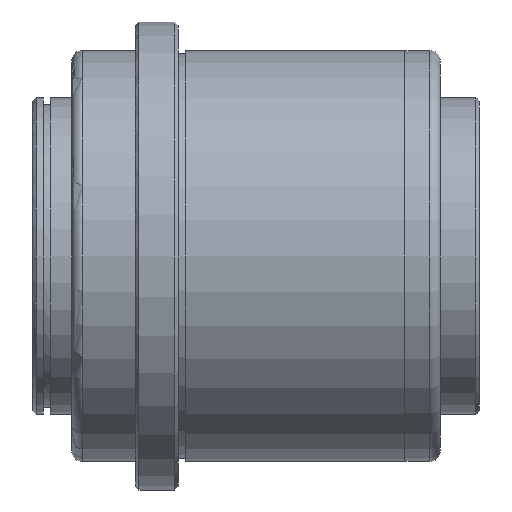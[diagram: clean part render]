
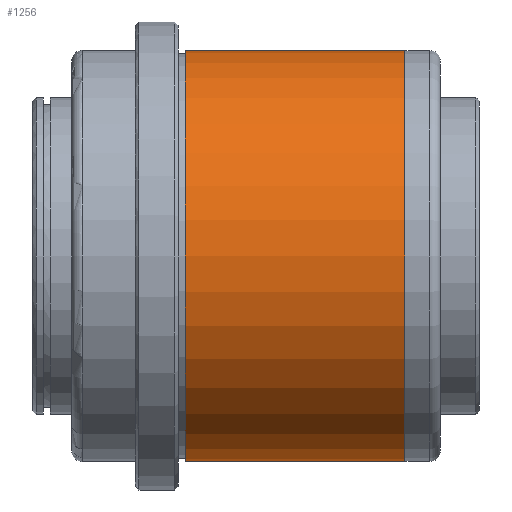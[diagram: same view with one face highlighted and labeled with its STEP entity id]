
A CAD part, front view. The second image highlights one B-rep face of the part: STEP entity #1256.
In plain terms, the highlighted cylindrical face has radius 29 mm (diameter 58 mm), a partial arc.
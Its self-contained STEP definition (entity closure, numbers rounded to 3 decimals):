
#1090=CARTESIAN_POINT('Vertex',(47.,0.,29.)) ;
#1093=CARTESIAN_POINT('Axis2P3D Location',(47.,0.,0.)) ;
#1097=CARTESIAN_POINT('Vertex',(47.,-29.,0.)) ;
#1100=CARTESIAN_POINT('Axis2P3D Location',(47.,0.,0.)) ;
#1104=CARTESIAN_POINT('Vertex',(47.,0.,-29.)) ;
#1196=CARTESIAN_POINT('Line Origine',(52.,0.,29.)) ;
#1200=CARTESIAN_POINT('Vertex',(16.,0.,29.)) ;
#1203=CARTESIAN_POINT('Line Origine',(52.,0.,-29.)) ;
#1207=CARTESIAN_POINT('Vertex',(16.,0.,-29.)) ;
#1231=CARTESIAN_POINT('Axis2P3D Location',(52.,0.,0.)) ;
#1236=CARTESIAN_POINT('Axis2P3D Location',(16.,0.,0.)) ;
#1240=CARTESIAN_POINT('Vertex',(16.,-29.,0.)) ;
#1243=CARTESIAN_POINT('Axis2P3D Location',(16.,0.,0.)) ;
#1094=DIRECTION('Axis2P3D Direction',(1.,0.,-0.)) ;
#1101=DIRECTION('Axis2P3D Direction',(1.,0.,-0.)) ;
#1197=DIRECTION('Vector Direction',(-1.,0.,0.)) ;
#1204=DIRECTION('Vector Direction',(-1.,0.,0.)) ;
#1232=DIRECTION('Axis2P3D Direction',(-1.,-0.,-0.)) ;
#1233=DIRECTION('Axis2P3D XDirection',(0.,0.,-1.)) ;
#1237=DIRECTION('Axis2P3D Direction',(-1.,-0.,-0.)) ;
#1244=DIRECTION('Axis2P3D Direction',(-1.,-0.,-0.)) ;
#1095=AXIS2_PLACEMENT_3D('Circle Axis2P3D',#1093,#1094,$) ;
#1102=AXIS2_PLACEMENT_3D('Circle Axis2P3D',#1100,#1101,$) ;
#1234=AXIS2_PLACEMENT_3D('Cylinder Axis2P3D',#1231,#1232,#1233) ;
#1238=AXIS2_PLACEMENT_3D('Circle Axis2P3D',#1236,#1237,$) ;
#1245=AXIS2_PLACEMENT_3D('Circle Axis2P3D',#1243,#1244,$) ;
#1249=ORIENTED_EDGE('',*,*,#1209,.T.) ;
#1250=ORIENTED_EDGE('',*,*,#1106,.F.) ;
#1251=ORIENTED_EDGE('',*,*,#1099,.F.) ;
#1252=ORIENTED_EDGE('',*,*,#1202,.T.) ;
#1253=ORIENTED_EDGE('',*,*,#1242,.T.) ;
#1254=ORIENTED_EDGE('',*,*,#1247,.T.) ;
#1198=VECTOR('Line Direction',#1197,1.) ;
#1205=VECTOR('Line Direction',#1204,1.) ;
#1256=ADVANCED_FACE('732-38',(#1255),#1235,.T.) ;
#1096=CIRCLE('generated circle',#1095,29.) ;
#1103=CIRCLE('generated circle',#1102,29.) ;
#1239=CIRCLE('generated circle',#1238,29.) ;
#1246=CIRCLE('generated circle',#1245,29.) ;
#1235=CYLINDRICAL_SURFACE('generated cylinder',#1234,29.) ;
#1099=EDGE_CURVE('',#1091,#1098,#1096,.T.) ;
#1106=EDGE_CURVE('',#1098,#1105,#1103,.T.) ;
#1202=EDGE_CURVE('',#1091,#1201,#1199,.T.) ;
#1209=EDGE_CURVE('',#1208,#1105,#1206,.F.) ;
#1242=EDGE_CURVE('',#1201,#1241,#1239,.F.) ;
#1247=EDGE_CURVE('',#1241,#1208,#1246,.F.) ;
#1248=EDGE_LOOP('',(#1249,#1250,#1251,#1252,#1253,#1254)) ;
#1255=FACE_OUTER_BOUND('',#1248,.T.) ;
#1199=LINE('Line',#1196,#1198) ;
#1206=LINE('Line',#1203,#1205) ;
#1091=VERTEX_POINT('',#1090) ;
#1098=VERTEX_POINT('',#1097) ;
#1105=VERTEX_POINT('',#1104) ;
#1201=VERTEX_POINT('',#1200) ;
#1208=VERTEX_POINT('',#1207) ;
#1241=VERTEX_POINT('',#1240) ;
